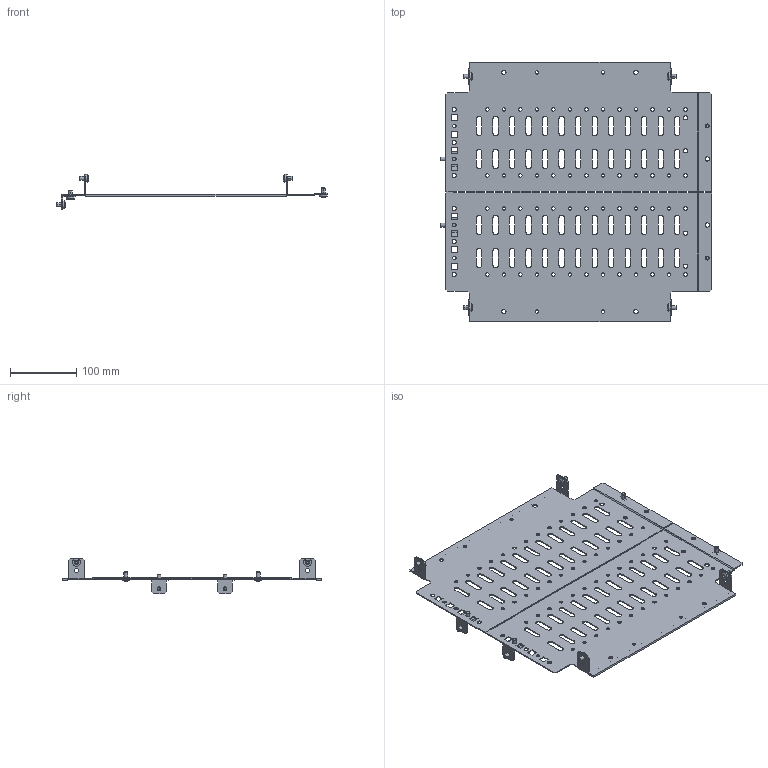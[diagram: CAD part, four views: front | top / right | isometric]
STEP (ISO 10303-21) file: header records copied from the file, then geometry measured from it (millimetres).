
FILE_DESCRIPTION (( 'STEP AP214' ), '1' );
FILE_NAME ('FO-00-SWH-040-040 Ïåðåãîðîäêà ñåêöèîíèðîâàíèÿ ãîðèçîíòàëüíàÿ 400õ400 ìì â øêàô ãëóáèíîé 800 ìì.STEP', '2025-08-13T08:48:24', ( '' ), ( '' ), 'SwSTEP 2.0', 'SolidWorks 2023', '' );
FILE_SCHEMA (( 'AUTOMOTIVE_DESIGN' ));
Length unit declared in the file: millimetre
Products named in the file (6): Перегородка секционирования горизонтальная 400х400 мм в шкаф глубиной 800 мм (L); Перегородка секционирования горизонтальная 400х400 мм в шкаф глубиной 800 мм L; Перегородка секционирования горизонтальная 400х400 мм в шкаф глубиной 800 мм (R); Перегородка секционирования горизонтальная 400х400 мм в шкаф глубиной 800 мм R; FO-00-SWH-040-040 Перегородка секционирования горизонтальная 400х400 мм в шкаф глубиной 800 мм; Уголок
Assembly tree (6 placements, depth 3):
  FO-00-SWH-040-040 Перегородка секционирования горизонтальная 400х400 мм в шкаф глубиной 800 мм
    Перегородка секционирования горизонтальная 400х400 мм в шкаф глубиной 800 мм (L)
      Перегородка секционирования горизонтальная 400х400 мм в шкаф глубиной 800 мм L
      Уголок
    Перегородка секционирования горизонтальная 400х400 мм в шкаф глубиной 800 мм (R)
      Перегородка секционирования горизонтальная 400х400 мм в шкаф глубиной 800 мм R
      Уголок
Bounding box: 411.5 x 393.6 x 54 mm (x, y, z)
Volume: 224612.9 mm3; surface area: 296650.6 mm2
Topology: 4 solids, 4 shells, 996 faces, 2836 edges, 1872 vertices
Faces by surface type: plane 474, cylinder 466, cone 24, torus 16, sphere 16
Entity records: 31026 total; most frequent: CARTESIAN_POINT 5762, ORIENTED_EDGE 5258, DIRECTION 5165, EDGE_CURVE 2629, VERTEX_POINT 1738, AXIS2_PLACEMENT_3D 1729, VECTOR 1707, LINE 1707
